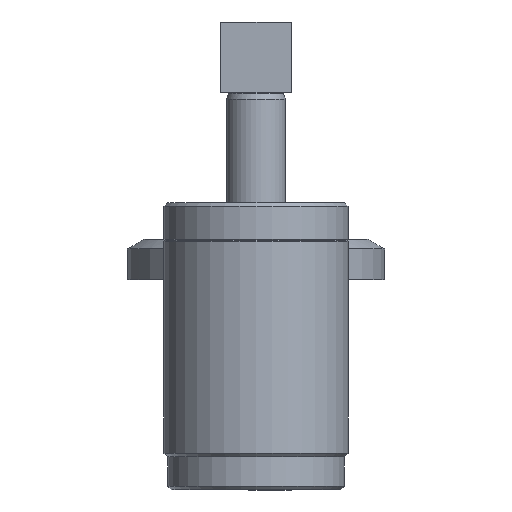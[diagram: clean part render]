
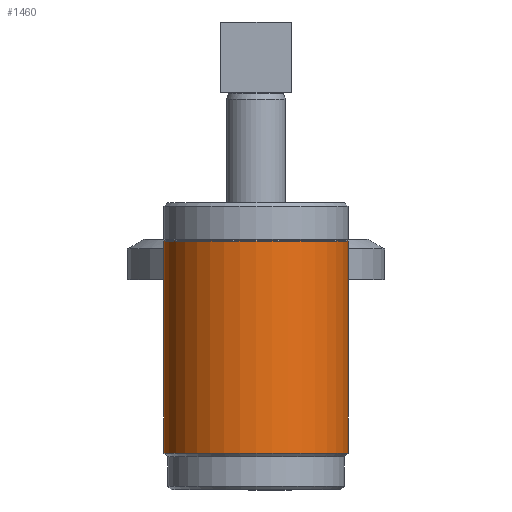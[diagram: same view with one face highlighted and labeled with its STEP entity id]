
A CAD part, left-side view. The second image highlights one B-rep face of the part: STEP entity #1460.
In plain terms, the highlighted cylindrical face has radius 25 mm (diameter 50 mm), a full revolution.
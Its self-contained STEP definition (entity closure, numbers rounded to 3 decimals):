
#109=CYLINDRICAL_SURFACE('',#2011,25.);
#544=ORIENTED_EDGE('',*,*,#768,.T.);
#545=ORIENTED_EDGE('',*,*,#778,.T.);
#768=EDGE_CURVE('',#912,#912,#1018,.T.);
#778=EDGE_CURVE('',#922,#922,#1028,.T.);
#912=VERTEX_POINT('',#2938);
#922=VERTEX_POINT('',#2968);
#1018=CIRCLE('',#1990,25.);
#1028=CIRCLE('',#2010,25.);
#1170=EDGE_LOOP('',(#544));
#1171=EDGE_LOOP('',(#545));
#1330=FACE_BOUND('',#1170,.T.);
#1331=FACE_BOUND('',#1171,.T.);
#1460=ADVANCED_FACE('',(#1330,#1331),#109,.T.);
#1990=AXIS2_PLACEMENT_3D('',#2937,#2327,#2328);
#2010=AXIS2_PLACEMENT_3D('',#2967,#2367,#2368);
#2011=AXIS2_PLACEMENT_3D('',#2969,#2369,#2370);
#2327=DIRECTION('',(0.,0.,-1.));
#2328=DIRECTION('',(-1.,0.,0.));
#2367=DIRECTION('',(0.,0.,1.));
#2368=DIRECTION('',(1.,0.,0.));
#2369=DIRECTION('',(0.,0.,1.));
#2370=DIRECTION('',(1.,0.,0.));
#2937=CARTESIAN_POINT('',(0.,0.,67.5));
#2938=CARTESIAN_POINT('',(-25.,0.,67.5));
#2967=CARTESIAN_POINT('',(0.,0.,10.));
#2968=CARTESIAN_POINT('',(25.,0.,10.));
#2969=CARTESIAN_POINT('',(0.,0.,141.5));
